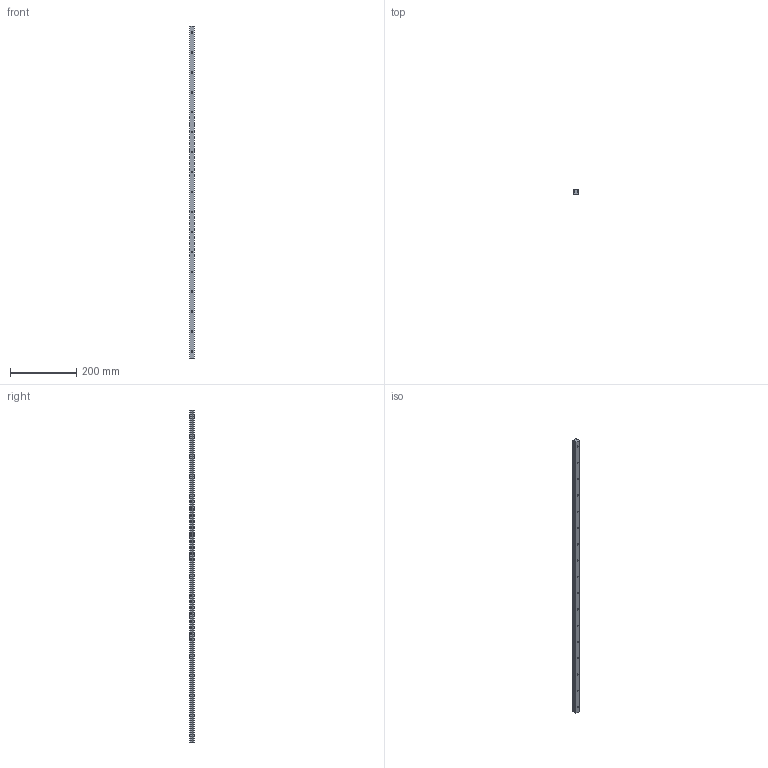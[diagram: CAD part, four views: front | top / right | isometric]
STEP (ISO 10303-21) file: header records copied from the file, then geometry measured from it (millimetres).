
FILE_DESCRIPTION(/* description */ (''),/* implementation_level */ '2;1');
FILE_NAME(/* name */ 'HGW15CA L=999mm.stp',/* time_stamp */ '2026-01-28T14:56:38+01:00',/* author */ ('Motedis'),/* organization */ (''),/* preprocessor_version */ 'ST-DEVELOPER v20.1',/* originating_system */ 'Autodesk Inventor 2026',/* authorisation */ '');
FILE_SCHEMA (('AUTOMOTIVE_DESIGN { 1 0 10303 214 3 1 1 }'));
Length unit declared in the file: millimetre
Products named in the file (1): HGW15CA
Bounding box: 15 x 15 x 999 mm (x, y, z)
Volume: 184556 mm3; surface area: 65494.9 mm2
Topology: 1 solids, 1 shells, 87 faces, 204 edges, 136 vertices
Faces by surface type: cylinder 48, plane 39
Full cylindrical faces by diameter (mm): 4.5 x17, 7.5 x17
Entity records: 2645 total; most frequent: DIRECTION 476, CARTESIAN_POINT 428, ORIENTED_EDGE 408, EDGE_CURVE 204, AXIS2_PLACEMENT_3D 184, EDGE_LOOP 138, VERTEX_POINT 136, LINE 108
